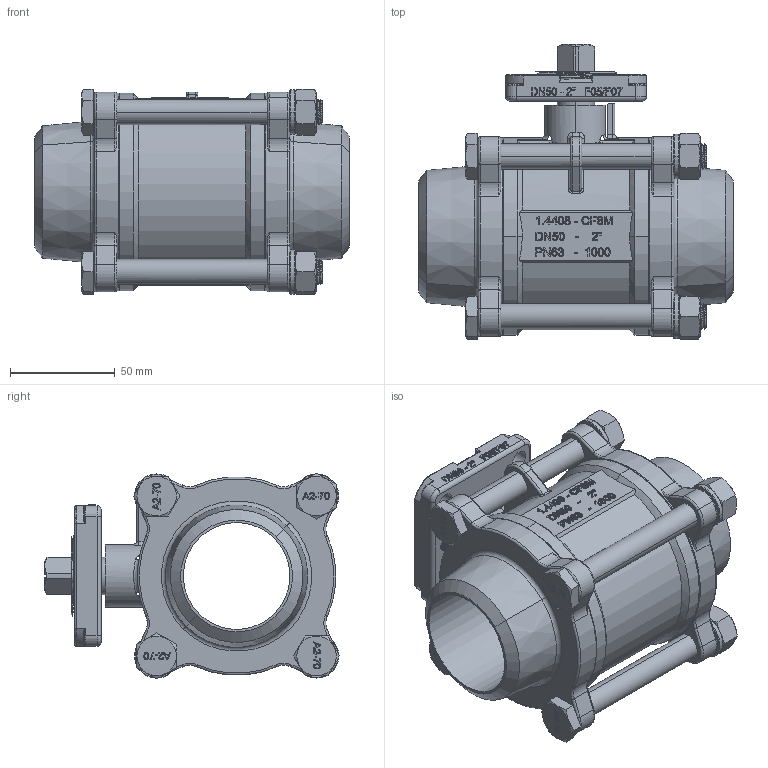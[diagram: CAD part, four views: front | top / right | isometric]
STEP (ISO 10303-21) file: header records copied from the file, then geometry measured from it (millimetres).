
FILE_DESCRIPTION (( 'STEP AP203' ), '1' );
FILE_NAME ('JV-35H (直孔對焊)-UNI-1.STEP', '2010-03-30T01:57:29', ( 'Colling' ), ( 'Collings' ), 'SwSTEP 2.0', 'SolidWorks 2005179', '' );
FILE_SCHEMA (( 'CONFIG_CONTROL_DESIGN' ));
Length unit declared in the file: millimetre
Products named in the file (1): JV-35H (直孔對焊)-UNI-1
Bounding box: 150 x 140.59 x 98.09 mm (x, y, z)
Surface area: 120991.5 mm2 (no closed solid volume)
Topology: 0 solids, 48 shells, 1281 faces, 4537 edges, 3244 vertices
Faces by surface type: plane 439, cylinder 369, bspline 237, cone 130, torus 106
Entity records: 104142 total; most frequent: CARTESIAN_POINT 69612, ORIENTED_EDGE 7211, DIRECTION 5771, EDGE_CURVE 4533, VERTEX_POINT 3244, VECTOR 2159, LINE 2159, AXIS2_PLACEMENT_3D 1806
